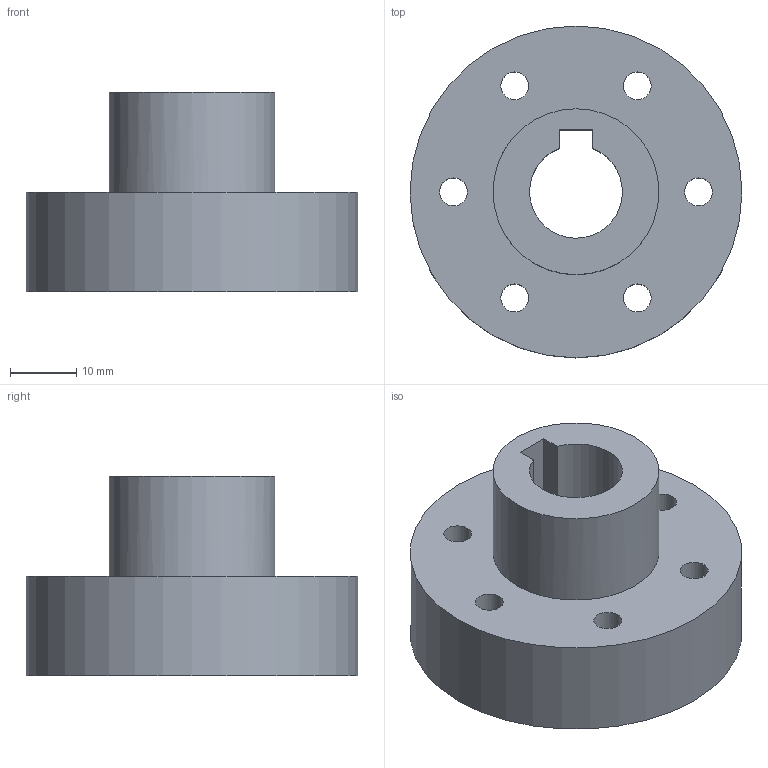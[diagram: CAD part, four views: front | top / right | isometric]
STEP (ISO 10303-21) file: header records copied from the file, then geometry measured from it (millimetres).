
FILE_DESCRIPTION(('HOOPS Exchange Step'),'2;1');
FILE_NAME('C:\Users\lindbee1\AppData\Local\Packages\Shapr3D.Shapr3D_j403pzjkqtqbj\TempState\export\temp_export','2023-09-07T14:28:29+03:00',('lindbee1'),('Shapr3D Limited'),'HOOPS Exchange 2023.2','Shapr3D','Authorized');
FILE_SCHEMA( ('AUTOMOTIVE_DESIGN { 1 0 10303 214 1 1 1 1 }') );
Length unit declared in the file: millimetre
Products named in the file (1): root
Bounding box: 50 x 50 x 30.02 mm (x, y, z)
Volume: 30584.7 mm3; surface area: 11992.2 mm2
Topology: 2 solids, 2 shells, 18 faces, 61 edges, 47 vertices
Faces by surface type: cylinder 11, plane 7
Full cylindrical faces by diameter (mm): 4.2 x6, 25 x2, 50 x1
Entity records: 773 total; most frequent: DIRECTION 140, CARTESIAN_POINT 127, ORIENTED_EDGE 122, EDGE_CURVE 61, AXIS2_PLACEMENT_3D 60, VERTEX_POINT 47, CIRCLE 41, EDGE_LOOP 34
